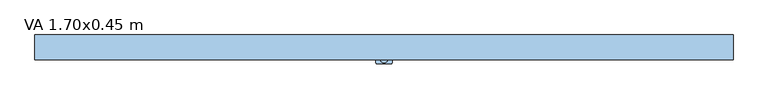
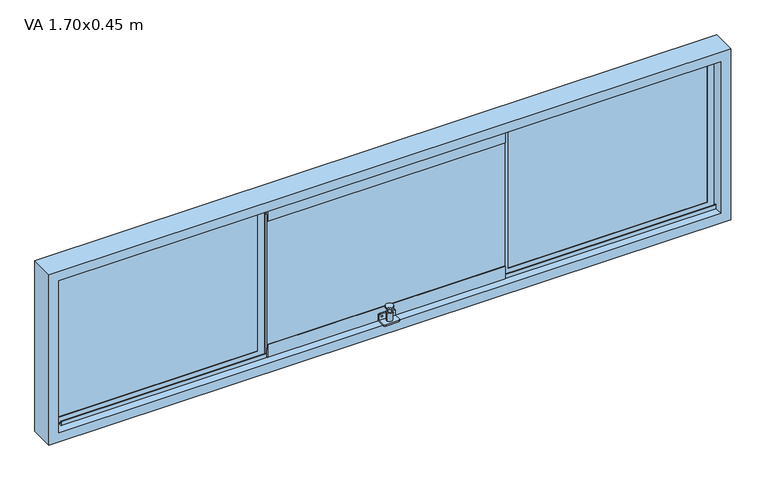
"""IFC4 building model written with IfcOpenShell, lengths in millimetres: window geometry, Ventana alta corrediza 3 cuerpos : VA 1.70x0.45 m."""

from ifc_helpers import new_model, si_unit, point, frame, frame_2d, origin, place, context, project, spatial, polyline, circle_curve, trimmed, segment, composite_curve, outline, extrude, faceted_brep, source, transform, mapped, element, save


def va_1_70x0_45_m_8137b2f7(model_context):
    return source(origin(), model_context, "Body", "SolidModel", [
        extrude(outline(composite_curve([segment(trimmed(circle_curve(frame_2d((0.0, -28.2738075)), 9.1519646), [point((9.1519646, -28.2738075))], [point((-9.1519646, -28.2738075))], False, "CARTESIAN"), True, "CONTINUOUS"), segment(trimmed(circle_curve(frame_2d((0.0, -28.2738075)), 9.1519646), [point((-9.1519646, -28.2738075))], [point((9.1519646, -28.2738075))], False, "CARTESIAN"), True, "CONTINUOUS")], self_intersect=False)), frame((0.0, 0.0, 1866.1518437), z_axis=(0.0, 0.0, 1.0), x_axis=(1.0, 0.0, 0.0)), (0.0, 0.0, 1.0), 3.4852564),
        extrude(outline(composite_curve([segment(trimmed(circle_curve(frame_2d((0.0, -28.2738075)), 4.1308937), [point((4.1308937, -28.2738075))], [point((-4.1308937, -28.2738075))], False, "CARTESIAN"), True, "CONTINUOUS"), segment(trimmed(circle_curve(frame_2d((0.0, -28.2738075)), 4.1308937), [point((-4.1308937, -28.2738075))], [point((4.1308937, -28.2738075))], False, "CARTESIAN"), True, "CONTINUOUS")], self_intersect=False)), frame((0.0, 0.0, 1853.913316), z_axis=(0.0, 0.0, 1.0), x_axis=(1.0, 0.0, 0.0)), (0.0, 0.0, 1.0), 12.2385277),
        extrude(outline(composite_curve([segment(trimmed(circle_curve(frame_2d((0.0, -28.2738075)), 7.026694), [point((7.026694, -28.2738075))], [point((-7.026694, -28.2738075))], False, "CARTESIAN"), True, "CONTINUOUS"), segment(trimmed(circle_curve(frame_2d((0.0, -28.2738075)), 7.026694), [point((-7.026694, -28.2738075))], [point((7.026694, -28.2738075))], False, "CARTESIAN"), True, "CONTINUOUS")], self_intersect=False)), frame((0.0, 0.0, 1832.1776083), z_axis=(0.0, 0.0, 1.0), x_axis=(1.0, 0.0, 0.0)), (0.0, 0.0, 1.0), 21.7357077),
        extrude(outline(composite_curve([segment(trimmed(circle_curve(frame_2d((1845.1933283, 18.01572)), 1.98428), [point((1845.1933283, 20.0))], [point((1847.1776083, 18.01572))], False, "CARTESIAN"), True, "CONTINUOUS"), segment(polyline([(1847.1776083, 18.01572), (1847.1776083, -18.01572)]), True, "CONTINUOUS"), segment(trimmed(circle_curve(frame_2d((1845.1933283, -18.01572)), 1.98428), [point((1847.1776083, -18.01572))], [point((1845.1933283, -20.0))], False, "CARTESIAN"), True, "CONTINUOUS"), segment(polyline([(1845.1933283, -20.0), (1832.1776083, -20.0), (1832.1776083, 20.0), (1845.1933283, 20.0)]), True, "CONTINUOUS")], self_intersect=False), holes=[composite_curve([segment(trimmed(circle_curve(frame_2d((1840.5771467, 13.3353779)), 1.6750611), [point((1840.5771467, 15.0104391))], [point((1840.5771467, 11.6603168))], True, "CARTESIAN"), True, "CONTINUOUS"), segment(trimmed(circle_curve(frame_2d((1840.5771467, 13.3353779)), 1.6750611), [point((1840.5771467, 11.6603168))], [point((1840.5771467, 15.0104391))], True, "CARTESIAN"), True, "CONTINUOUS")], self_intersect=False), composite_curve([segment(trimmed(circle_curve(frame_2d((1840.5771467, -13.3353779)), 1.6750611), [point((1840.5771467, -15.0104391))], [point((1840.5771467, -11.6603168))], True, "CARTESIAN"), True, "CONTINUOUS"), segment(trimmed(circle_curve(frame_2d((1840.5771467, -13.3353779)), 1.6750611), [point((1840.5771467, -11.6603168))], [point((1840.5771467, -15.0104391))], True, "CARTESIAN"), True, "CONTINUOUS")], self_intersect=False)]), frame((0.0, -19.1218429, 0.0), z_axis=(0.0, 1.0, 0.0), x_axis=(0.0, 0.0, 1.0)), (0.0, 0.0, 1.0), 4.012039),
        extrude(outline(composite_curve([segment(polyline([(-20.0, -15.1098039), (20.0, -15.1098039), (20.0, -36.2721359)]), True, "CONTINUOUS"), segment(trimmed(circle_curve(frame_2d((16.1623319, -36.2721359)), 3.8376681), [point((20.0, -36.2721359))], [point((16.1623319, -40.1098039))], False, "CARTESIAN"), True, "CONTINUOUS"), segment(polyline([(16.1623319, -40.1098039), (-16.1623319, -40.1098039)]), True, "CONTINUOUS"), segment(trimmed(circle_curve(frame_2d((-16.1623319, -36.2721359)), 3.8376681), [point((-16.1623319, -40.1098039))], [point((-20.0, -36.2721359))], False, "CARTESIAN"), True, "CONTINUOUS"), segment(polyline([(-20.0, -36.2721359), (-20.0, -15.1098039)]), True, "CONTINUOUS")], self_intersect=False)), frame((0.0, 0.0, 1828.6104688), z_axis=(0.0, 0.0, 1.0), x_axis=(1.0, 0.0, 0.0)), (0.0, 0.0, 1.0), 3.5671395),
        extrude(outline(polyline([(-295.8333333, -13.9001865), (-295.8333333, -4.4001865), (295.8333333, -4.4001865), (295.8333333, -13.9001865), (-295.8333333, -13.9001865)])), frame((0.0, 0.0, 1848.9759668), z_axis=(0.0, 0.0, 1.0), x_axis=(1.0, 0.0, 0.0)), (0.0, 0.0, 1.0), 352.0480665),
        extrude(outline(polyline([(-299.4270833, 1.2096174), (-821.40625, 1.2096174), (-821.40625, 10.7096174), (-299.4270833, 10.7096174), (-299.4270833, 1.2096174)])), frame((0.0, 0.0, 1828.59375), z_axis=(0.0, 0.0, 1.0), x_axis=(1.0, 0.0, 0.0)), (0.0, 0.0, 1.0), 392.8125),
        extrude(outline(polyline([(821.40625, 1.2096174), (299.4270833, 1.2096174), (299.4270833, 10.7096174), (821.40625, 10.7096174), (821.40625, 1.2096174)])), frame((0.0, 0.0, 1828.59375), z_axis=(0.0, 0.0, 1.0), x_axis=(1.0, 0.0, 0.0)), (0.0, 0.0, 1.0), 392.8125),
        extrude(outline(composite_curve([segment(polyline([(-10.2821926, 2225.0), (0.0, 2225.0), (0.0, 2222.9830324), (-8.0182357, 2222.9830324), (-8.0182357, 2214.1628008)]), True, "CONTINUOUS"), segment(trimmed(circle_curve(frame_2d((-9.1502142, 2214.8593269)), 1.3291064), [point((-8.0182357, 2214.1628008))], [point((-10.2821926, 2214.1628008))], False, "CARTESIAN"), True, "CONTINUOUS"), segment(polyline([(-10.2821926, 2214.1628008), (-10.2821926, 2225.0)]), True, "CONTINUOUS")], self_intersect=False)), frame((-808.2282521, 0.0, 0.0), z_axis=(1.0, 0.0, 0.0), x_axis=(0.0, 1.0, 0.0)), (0.0, 0.0, 1.0), 1633.2282521),
        extrude(outline(polyline([(-12.0251865, 2204.6177832), (-6.2751865, 2204.6177832), (-6.2751865, 2221.3895312), (-3.190569, 2221.3895312), (-3.190569, 2187.8460353), (-4.4001865, 2187.8460353), (-4.4001865, 2201.0240332), (-13.9001865, 2201.0240332), (-13.9001865, 2187.8460353), (-15.1098039, 2187.8460353), (-15.1098039, 2221.3895312), (-12.0251865, 2221.3895312), (-12.0251865, 2204.6177832)])), frame((-295.8333333, 0.0, 0.0), z_axis=(1.0, 0.0, 0.0), x_axis=(0.0, 1.0, 0.0)), (0.0, 0.0, 1.0), 591.6666667),
        extrude(outline(polyline([(-6.9867702, 2205.2900719), (-9.1501865, 2207.4534882), (-11.3136028, 2205.2900719), (-11.3136028, 2214.8233667), (-9.1501865, 2212.6599504), (-6.9867702, 2214.8233667), (-6.9867702, 2205.2900719)])), frame((-295.8333333, 0.0, 0.0), z_axis=(1.0, 0.0, 0.0), x_axis=(0.0, 1.0, 0.0)), (0.0, 0.0, 1.0), 591.6666667),
        faceted_brep([(-312.6050813, 0.0, 2208.2282521), (-312.6050813, 1.2096174, 2208.2282521), (-312.6050813, 1.2096174, 1841.7717479), (-312.6050813, 0.0, 1841.7717479), (-299.4270833, 1.2096174, 2221.40625), (-299.4270833, 10.7096174, 2221.40625), (-299.4270833, 10.7096174, 1828.59375), (-299.4270833, 1.2096174, 1828.59375), (-312.6050813, 10.7096174, 2208.2282521), (-312.6050813, 11.9192349, 2208.2282521), (-312.6050813, 11.9192349, 1841.7717479), (-312.6050813, 10.7096174, 1841.7717479), (-295.8333333, 11.9192349, 2225.0), (-295.8333333, 0.0, 2225.0), (-295.8333333, 0.0, 1825.0), (-295.8333333, 11.9192349, 1825.0), (-808.2282521, 1.2096174, 1841.7717479), (-808.2282521, 0.0, 1841.7717479), (-821.40625, 10.7096174, 1828.59375), (-821.40625, 1.2096174, 1828.59375), (-808.2282521, 11.9192349, 1841.7717479), (-808.2282521, 10.7096174, 1841.7717479), (-825.0, 0.0, 1825.0), (-825.0, 11.9192349, 1825.0), (-808.2282521, 1.2096174, 2208.2282521), (-808.2282521, 0.0, 2208.2282521), (-821.40625, 10.7096174, 2221.40625), (-821.40625, 1.2096174, 2221.40625), (-808.2282521, 11.9192349, 2208.2282521), (-808.2282521, 10.7096174, 2208.2282521), (-825.0, 0.0, 2225.0), (-825.0, 11.9192349, 2225.0)], [[[0, 1, 2, 3]], [[4, 5, 6, 7]], [[8, 9, 10, 11]], [[12, 13, 14, 15]], [[3, 2, 16, 17]], [[7, 6, 18, 19]], [[11, 10, 20, 21]], [[15, 14, 22, 23]], [[17, 16, 24, 25]], [[19, 18, 26, 27]], [[21, 20, 28, 29]], [[23, 22, 30, 31]], [[13, 30, 22, 14], [3, 17, 25, 0]], [[25, 24, 1, 0]], [[7, 19, 27, 4], [1, 24, 16, 2]], [[27, 26, 5, 4]], [[5, 26, 18, 6], [11, 21, 29, 8]], [[29, 28, 9, 8]], [[15, 23, 31, 12], [9, 28, 20, 10]], [[31, 30, 13, 12]]]),
        faceted_brep([(312.6050813, 1.2096174, 2208.2282521), (312.6050813, 0.0, 2208.2282521), (312.6050813, 0.0, 1841.7717479), (312.6050813, 1.2096174, 1841.7717479), (299.4270833, 10.7096174, 2221.40625), (299.4270833, 1.2096174, 2221.40625), (299.4270833, 1.2096174, 1828.59375), (299.4270833, 10.7096174, 1828.59375), (312.6050813, 11.9192349, 2208.2282521), (312.6050813, 10.7096174, 2208.2282521), (312.6050813, 10.7096174, 1841.7717479), (312.6050813, 11.9192349, 1841.7717479), (295.8333333, 0.0, 2225.0), (295.8333333, 11.9192349, 2225.0), (295.8333333, 11.9192349, 1825.0), (295.8333333, 0.0, 1825.0), (808.2282521, 0.0, 1841.7717479), (808.2282521, 1.2096174, 1841.7717479), (821.40625, 1.2096174, 1828.59375), (821.40625, 10.7096174, 1828.59375), (808.2282521, 10.7096174, 1841.7717479), (808.2282521, 11.9192349, 1841.7717479), (825.0, 11.9192349, 1825.0), (825.0, 0.0, 1825.0), (808.2282521, 0.0, 2208.2282521), (808.2282521, 1.2096174, 2208.2282521), (821.40625, 1.2096174, 2221.40625), (821.40625, 10.7096174, 2221.40625), (808.2282521, 10.7096174, 2208.2282521), (808.2282521, 11.9192349, 2208.2282521), (825.0, 11.9192349, 2225.0), (825.0, 0.0, 2225.0)], [[[0, 1, 2, 3]], [[4, 5, 6, 7]], [[8, 9, 10, 11]], [[12, 13, 14, 15]], [[3, 2, 16, 17]], [[7, 6, 18, 19]], [[11, 10, 20, 21]], [[15, 14, 22, 23]], [[17, 16, 24, 25]], [[19, 18, 26, 27]], [[21, 20, 28, 29]], [[23, 22, 30, 31]], [[15, 23, 31, 12], [1, 24, 16, 2]], [[25, 24, 1, 0]], [[5, 26, 18, 6], [3, 17, 25, 0]], [[27, 26, 5, 4]], [[7, 19, 27, 4], [9, 28, 20, 10]], [[29, 28, 9, 8]], [[13, 30, 22, 14], [11, 21, 29, 8]], [[31, 30, 13, 12]]]),
        extrude(outline(polyline([(-270.8333333, 0.0), (-295.8333333, 0.0), (-295.8333333, 30.15), (-270.8333333, 30.15), (-270.8333333, 0.0)])), frame((0.0, 0.0, 1825.0), z_axis=(0.0, 0.0, 1.0), x_axis=(1.0, 0.0, 0.0)), (0.0, 0.0, 1.0), 400.0),
        extrude(outline(polyline([(295.8333333, 0.0), (270.8333333, 0.0), (270.8333333, 30.15), (295.8333333, 30.15), (295.8333333, 0.0)])), frame((0.0, 0.0, 1825.0), z_axis=(0.0, 0.0, 1.0), x_axis=(1.0, 0.0, 0.0)), (0.0, 0.0, 1.0), 400.0),
        extrude(outline(polyline([(1800.0, -850.0), (1800.0, 850.0), (2250.0, 850.0), (2250.0, -850.0), (1800.0, -850.0)]), holes=[polyline([(2225.0, -825.0), (2225.0, 825.0), (1825.0, 825.0), (1825.0, -825.0), (2225.0, -825.0)])]), frame((0.0, -30.15, 0.0), z_axis=(0.0, 1.0, 0.0), x_axis=(0.0, 0.0, 1.0)), (0.0, 0.0, 1.0), 60.3),
        extrude(outline(polyline([(-3.190569, 1862.1539647), (-3.190569, 1828.6104688), (-6.2751865, 1828.6104688), (-6.2751865, 1845.3822168), (-12.0251865, 1845.3822168), (-12.0251865, 1828.6104688), (-15.1098039, 1828.6104688), (-15.1098039, 1862.1539647), (-13.9001865, 1862.1539647), (-13.9001865, 1848.9759668), (-4.4001865, 1848.9759668), (-4.4001865, 1862.1539647), (-3.190569, 1862.1539647)])), frame((-295.8333333, 0.0, 0.0), z_axis=(1.0, 0.0, 0.0), x_axis=(0.0, 1.0, 0.0)), (0.0, 0.0, 1.0), 591.6666667),
        extrude(outline(polyline([(-9.1501865, 1842.5465118), (-6.9867702, 1844.7099281), (-6.9867702, 1835.1766333), (-9.1501865, 1837.3400496), (-11.3136028, 1835.1766333), (-11.3136028, 1844.7099281), (-9.1501865, 1842.5465118)])), frame((-295.8333333, 0.0, 0.0), z_axis=(1.0, 0.0, 0.0), x_axis=(0.0, 1.0, 0.0)), (0.0, 0.0, 1.0), 591.6666667),
        extrude(outline(composite_curve([segment(polyline([(-10.2821926, 1825.0), (-10.2821926, 1835.8371992)]), True, "CONTINUOUS"), segment(trimmed(circle_curve(frame_2d((-9.1502142, 1835.1406731)), 1.3291064), [point((-10.2821926, 1835.8371992))], [point((-8.0182357, 1835.8371992))], False, "CARTESIAN"), True, "CONTINUOUS"), segment(polyline([(-8.0182357, 1835.8371992), (-8.0182357, 1827.0169676), (0.0, 1827.0169676), (0.0, 1825.0), (-10.2821926, 1825.0)]), True, "CONTINUOUS")], self_intersect=False)), frame((-808.2282521, 0.0, 0.0), z_axis=(1.0, 0.0, 0.0), x_axis=(0.0, 1.0, 0.0)), (0.0, 0.0, 1.0), 1633.2282521),
    ])


if __name__ == "__main__":
    model = new_model("IFC4")
    model_context = context("Model", 3, world=origin())
    ifc_project = project(units=[si_unit("LENGTHUNIT", "METRE", prefix="MILLI")], contexts=[model_context])
    site = spatial("IfcSite", under=ifc_project)
    building = spatial("IfcBuilding", under=site)
    placement = place(None, origin())
    va_1_70x0_45_m_shape = va_1_70x0_45_m_8137b2f7(model_context)
    element("IfcWindow", 1, ObjectType="Ventana alta corrediza 3 cuerpos : VA 1.70x0.45 m", at=placement, inside=building, context=model_context, shape_type="MappedRepresentation", body=[
        mapped(va_1_70x0_45_m_shape, transform((0.0, 0.0, 0.0), x_axis=(1.0, 0.0, 0.0), y_axis=(0.0, 1.0, 0.0), z_axis=(0.0, 0.0, 1.0))),
    ])
    save(model, "model.ifc")
